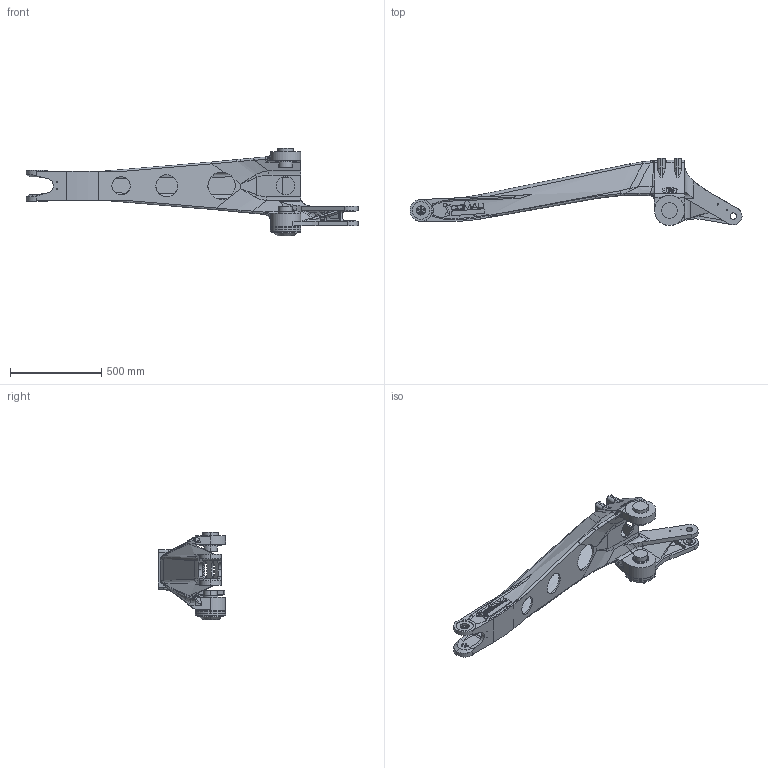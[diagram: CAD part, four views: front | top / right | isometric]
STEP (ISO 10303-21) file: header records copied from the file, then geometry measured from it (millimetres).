
FILE_DESCRIPTION (( 'STEP AP214' ), '1' );
FILE_NAME ('SMART5 PAL 260-3.1_p06.STEP', '2010-08-26T06:12:33', ( '' ), ( '' ), 'SwSTEP 2.0', 'SolidWorks 2007', '' );
FILE_SCHEMA (( 'AUTOMOTIVE_DESIGN' ));
Length unit declared in the file: millimetre
Products named in the file (1): SMART5 PAL 260-3.1_p06
Bounding box: 1816.17 x 367.5 x 480.5 mm (x, y, z)
Volume: 16615003.2 mm3; surface area: 2384029.3 mm2
Topology: 1 solids, 1 shells, 894 faces, 2424 edges, 1556 vertices
Faces by surface type: cylinder 322, plane 264, bspline 250, torus 31, cone 27
Entity records: 38541 total; most frequent: CARTESIAN_POINT 17360, ORIENTED_EDGE 4794, DIRECTION 3559, EDGE_CURVE 2397, VERTEX_POINT 1556, AXIS2_PLACEMENT_3D 1300, EDGE_LOOP 993, VECTOR 959
